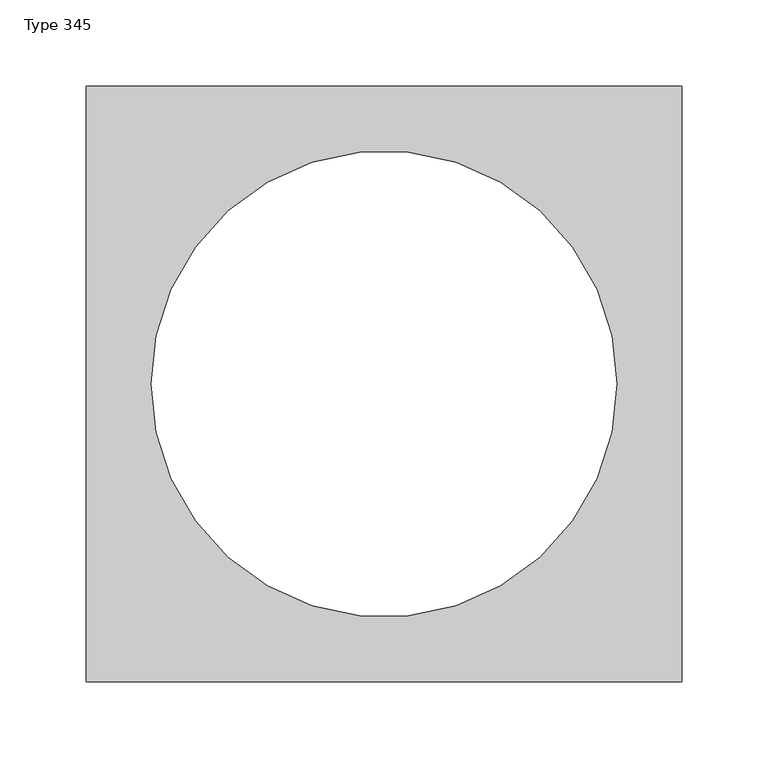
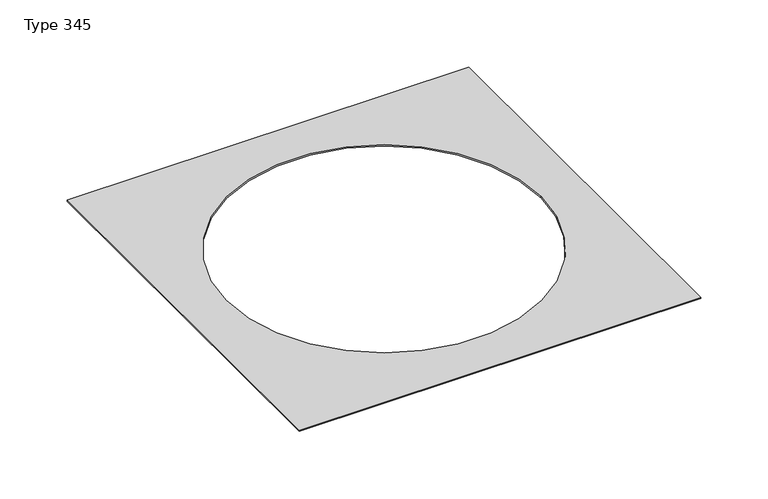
"""IFC4 building model written with IfcOpenShell, lengths in millimetres: proxy geometry, Dafa_Hi-tack_Pipe_Collar : Type 345."""

from ifc_helpers import new_model, si_unit, point, origin, origin_with_axes, origin_2d, place, context, project, spatial, polyline, circle_curve, trimmed, segment, composite_curve, outline, extrude, source, transform, mapped, element, save


def type_345_9c5c3a70(model_context):
    return source(origin(), model_context, "Body", "SweptSolid", [
        extrude(outline(polyline([(172.5, 172.5), (172.5, -172.5), (-172.5, -172.5), (-172.5, 172.5), (172.5, 172.5)]), holes=[composite_curve([segment(trimmed(circle_curve(origin_2d(), 135.0), [point((-135.0, 0.0))], [point((135.0, 0.0))], True, "CARTESIAN"), True, "CONTINUOUS"), segment(trimmed(circle_curve(origin_2d(), 135.0), [point((135.0, 0.0))], [point((-135.0, 0.0))], True, "CARTESIAN"), True, "CONTINUOUS")], self_intersect=False)]), origin_with_axes(), (0.0, 0.0, 1.0), 1.2),
    ])


if __name__ == "__main__":
    model = new_model("IFC4")
    model_context = context("Model", 3, world=origin())
    ifc_project = project(units=[si_unit("LENGTHUNIT", "METRE", prefix="MILLI")], contexts=[model_context])
    site = spatial("IfcSite", under=ifc_project)
    building = spatial("IfcBuilding", under=site)
    placement = place(None, origin())
    type_345_shape = type_345_9c5c3a70(model_context)
    element("IfcBuildingElementProxy", 1, Name="Dafa_Hi-tack_Pipe_Collar : Type 345", ObjectType="Dafa_Hi-tack_Pipe_Collar : Type 345", at=placement, inside=building, context=model_context, shape_type="MappedRepresentation", body=[
        mapped(type_345_shape, transform((0.0, 0.0, 0.0), x_axis=(1.0, 0.0, 0.0), y_axis=(0.0, 1.0, 0.0), z_axis=(0.0, 0.0, 1.0))),
    ])
    save(model, "model.ifc")
